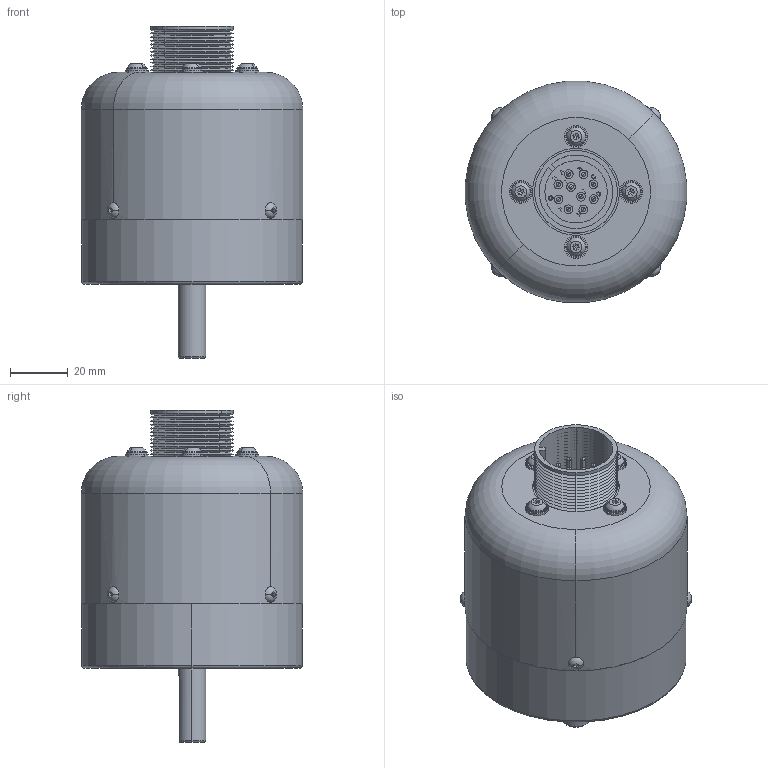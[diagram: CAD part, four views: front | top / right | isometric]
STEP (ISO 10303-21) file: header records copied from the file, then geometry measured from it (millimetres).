
FILE_DESCRIPTION (( 'STEP AP203' ), '1' );
FILE_NAME ('Encoder_STEP_FILE_030122.STEP', '2022-03-01T14:08:35', ( '' ), ( '' ), 'SwSTEP 2.0', 'SolidWorks 2021', '' );
FILE_SCHEMA (( 'CONFIG_CONTROL_DESIGN' ));
Length unit declared in the file: inch
Products named in the file (22): 3458C-1_rev_C; 2118_w_3458_rev_C_Can height change; RCML15_hw; 6-32 3x8 BHCS; 3088A381; 2115_2114; 3458_rev C; 2118; 97633A170; 2116; RI-1438; MS3102E18-1P-1; O-Ring; RCML15; 2115-1; 4-40 1x4 Hex Button Head Cap Screw; #6 lock washer; 2117_Rev b; 3519; DF3-8P-2V; 90134A031; Encoder_STEP_FILE_030122
Assembly tree (36 placements, depth 4):
  Encoder_STEP_FILE_030122
    2115-1
      2115_2114
      RI-1438  x2
      2116
      3088A381
      97633A170  x2
      90134A031
      RCML15
      RCML15_hw  x2
      O-Ring
    2118_w_3458_rev_C_Can height change
      2117_Rev b
      2118
      3458C-1_rev_C
        3458_rev C
        MS3102E18-1P-1
        DF3-8P-2V
      #6 lock washer  x4
      6-32 3x8 BHCS  x4
      3519  x4
    4-40 1x4 Hex Button Head Cap Screw  x4
Bounding box: 76.42 x 76.42 x 114.61 mm (x, y, z)
Volume: 176173.7 mm3; surface area: 87492.7 mm2
Topology: 33 solids, 42 shells, 3554 faces, 8858 edges, 5544 vertices
Faces by surface type: plane 1575, cylinder 929, cone 900, bspline 71, torus 51, sphere 28
Entity records: 87768 total; most frequent: CARTESIAN_POINT 22725, ORIENTED_EDGE 13074, DIRECTION 12580, EDGE_CURVE 6537, VECTOR 4456, LINE 4456, VERTEX_POINT 4193, AXIS2_PLACEMENT_3D 4062
